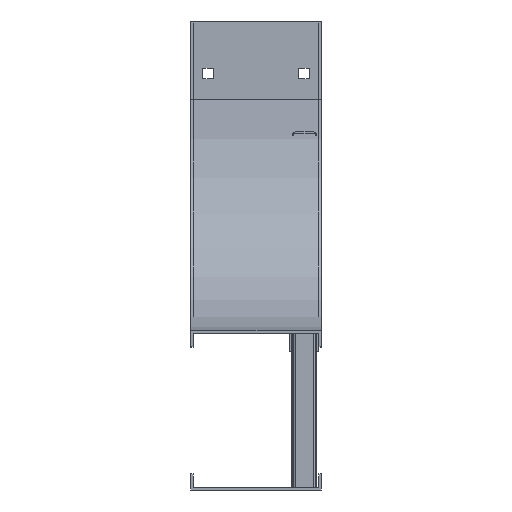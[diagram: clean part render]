
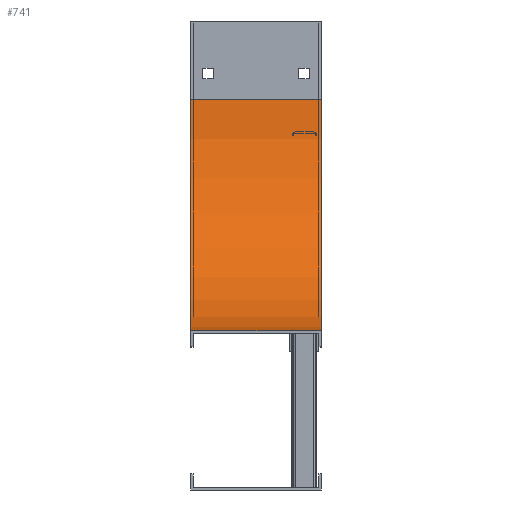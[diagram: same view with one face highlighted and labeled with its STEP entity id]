
A CAD part, left-side view. The second image highlights one B-rep face of the part: STEP entity #741.
In plain terms, the highlighted cylindrical face has radius 228.6 mm (diameter 457.2 mm), a partial arc.
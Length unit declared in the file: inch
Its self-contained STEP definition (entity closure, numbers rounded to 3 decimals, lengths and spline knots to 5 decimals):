
#156=CARTESIAN_POINT('',(0.,-9.,3.));
#157=DIRECTION('',(1.,0.,0.));
#158=DIRECTION('',(0.,1.,0.));
#159=AXIS2_PLACEMENT_3D('',#156,#157,#158);
#165=DIRECTION('',(1.,0.,0.));
#166=VECTOR('',#165,5.08);
#167=CARTESIAN_POINT('',(-5.08,0.,3.));
#168=LINE('',#167,#166);
#169=CARTESIAN_POINT('',(-5.08,-9.,3.));
#170=DIRECTION('',(1.,0.,0.));
#171=DIRECTION('',(0.,1.,0.));
#172=AXIS2_PLACEMENT_3D('',#169,#170,#171);
#174=DIRECTION('',(1.,0.,0.));
#175=VECTOR('',#174,5.08);
#176=CARTESIAN_POINT('',(-5.08,-9.,12.));
#177=LINE('',#176,#175);
#409=CARTESIAN_POINT('',(-5.08,0.,3.));
#410=CARTESIAN_POINT('',(0.,0.,3.));
#411=VERTEX_POINT('',#409);
#412=VERTEX_POINT('',#410);
#425=CARTESIAN_POINT('',(-5.08,-9.,12.));
#426=CARTESIAN_POINT('',(0.,-9.,12.));
#427=VERTEX_POINT('',#425);
#428=VERTEX_POINT('',#426);
#729=CARTESIAN_POINT('',(-1.,-9.,3.));
#730=DIRECTION('',(1.,0.,0.));
#731=DIRECTION('',(0.,-1.,0.));
#732=AXIS2_PLACEMENT_3D('',#729,#730,#731);
#733=CYLINDRICAL_SURFACE('',#732,9.);
#734=ORIENTED_EDGE('',*,*,#553,.F.);
#735=ORIENTED_EDGE('',*,*,#596,.T.);
#737=ORIENTED_EDGE('',*,*,#736,.T.);
#738=ORIENTED_EDGE('',*,*,#715,.F.);
#739=EDGE_LOOP('',(#734,#735,#737,#738));
#740=FACE_OUTER_BOUND('',#739,.F.);
#741=ADVANCED_FACE('',(#740),#733,.F.);
#160=CIRCLE('',#159,9.);
#173=CIRCLE('',#172,9.);
#553=EDGE_CURVE('',#411,#412,#168,.T.);
#596=EDGE_CURVE('',#411,#427,#173,.T.);
#715=EDGE_CURVE('',#412,#428,#160,.T.);
#736=EDGE_CURVE('',#427,#428,#177,.T.);
